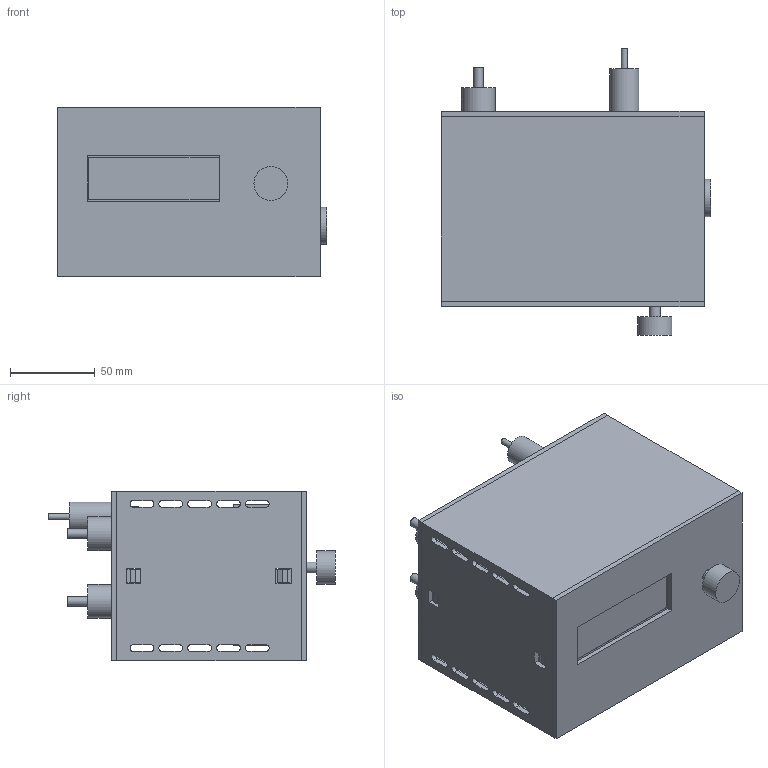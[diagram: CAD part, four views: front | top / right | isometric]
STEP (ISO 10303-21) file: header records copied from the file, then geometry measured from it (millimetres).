
FILE_DESCRIPTION(('Open CASCADE Model'),'2;1');
FILE_NAME('Open CASCADE Shape Model','2026-11-05T23:27:49',('Author'),( 'Open CASCADE'),'Open CASCADE STEP processor 7.8','Open CASCADE 7.8' ,'Unknown');
FILE_SCHEMA(('AUTOMOTIVE_DESIGN { 1 0 10303 214 1 1 1 1 }'));
Length unit declared in the file: millimetre
Products named in the file (108): Laboratory_controller_fit_study_07_integrated_buck; 01_Pieces_imprimees; 01_Shell_open_front_and_rear; 02_Removable_front_LCD_A; 03_B_removable_carrier; 04_Rear_panel_with_latches; 02_Carte_A_reference; PCB_A; A_C1_ENVELOPE; A_C2_ENVELOPE; A_C3_ENVELOPE; A_D1_ENVELOPE; A_D2_ENVELOPE; A_J1_ENVELOPE; A_J2_ENVELOPE; A_J3_ENVELOPE; A_J4_ENVELOPE; A_J5_ENVELOPE; A_J6_ENVELOPE; A_J7_ENVELOPE; A_JP1_ENVELOPE; A_R1_ENVELOPE; A_R2_ENVELOPE; A_R3_ENVELOPE; A_R4_ENVELOPE; A_R5_ENVELOPE; A_R6_ENVELOPE; A_R7_ENVELOPE; A_U2_ENVELOPE; A_DEVKIT_SOCKET_1; A_DEVKIT_MALE_HEADER_SPACER_1; A_DEVKIT_SOCKET_2; A_DEVKIT_MALE_HEADER_SPACER_2; A_DEVKIT_PCB_REFERENCE_54x27; A_DEVKIT_RF_SHIELD_ENVELOPE; A_DEVKIT_USB_BRIDGE_ENVELOPE; A_DEVKIT_USB_C_ENVELOPE; 03_Carte_B_reference; PCB_B; B_R3_ENVELOPE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
Assembly tree (107 placements, depth 3):
  Laboratory_controller_fit_study_07_integrated_buck
    01_Pieces_imprimees
      01_Shell_open_front_and_rear
      02_Removable_front_LCD_A
      03_B_removable_carrier
      04_Rear_panel_with_latches
    02_Carte_A_reference
      PCB_A
      A_C1_ENVELOPE
      A_C2_ENVELOPE
      A_C3_ENVELOPE
      A_D1_ENVELOPE
      A_D2_ENVELOPE
      A_J1_ENVELOPE
      A_J2_ENVELOPE
      A_J3_ENVELOPE
      A_J4_ENVELOPE
      A_J5_ENVELOPE
      A_J6_ENVELOPE
      A_J7_ENVELOPE
      A_JP1_ENVELOPE
      A_R1_ENVELOPE
      A_R2_ENVELOPE
      A_R3_ENVELOPE
      A_R4_ENVELOPE
      A_R5_ENVELOPE
      A_R6_ENVELOPE
      A_R7_ENVELOPE
      A_U2_ENVELOPE
      A_DEVKIT_SOCKET_1
      A_DEVKIT_MALE_HEADER_SPACER_1
      A_DEVKIT_SOCKET_2
      A_DEVKIT_MALE_HEADER_SPACER_2
      A_DEVKIT_PCB_REFERENCE_54x27
      A_DEVKIT_RF_SHIELD_ENVELOPE
      A_DEVKIT_USB_BRIDGE_ENVELOPE
      A_DEVKIT_USB_C_ENVELOPE
    03_Carte_B_reference
      PCB_B
      B_R3_ENVELOPE
      B_C3_ENVELOPE
      B_L1_ENVELOPE
      B_J4_ENVELOPE
      B_D9_ENVELOPE
      B_R12_ENVELOPE
      B_U5_ENVELOPE
      B_C5_ENVELOPE
      B_R5_ENVELOPE
      B_R11_ENVELOPE
      B_C2_ENVELOPE
      B_C8_ENVELOPE
      B_D4_ENVELOPE
      B_C6_ENVELOPE
      B_R13_ENVELOPE
      B_Q2_ENVELOPE
      B_F1_ENVELOPE
      B_C4_ENVELOPE
      B_D3_ENVELOPE
      B_J3_ENVELOPE
      B_R4_ENVELOPE
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Bounding box: 159 x 169 x 100 mm (x, y, z)
Volume: 421736 mm3; surface area: 317849.8 mm2
Topology: 101 solids, 101 shells, 1058 faces, 2474 edges, 1637 vertices
Faces by surface type: plane 973, cylinder 85
Full cylindrical faces by diameter (mm): 2.2 x12, 3 x3, 3.5 x1, 4.3 x1, 5.5 x2, 6.3 x2, 6.4 x1, 7.2 x1, 8 x1, 12 x6, 12.4 x1, 12.5 x2, 15 x2, 16 x1, 17 x2, 20 x5, 22 x2
Entity records: 63909 total; most frequent: CARTESIAN_POINT 11465, DIRECTION 8976, LINE 6079, VECTOR 6079, ORIENTED_EDGE 4948, PCURVE 4948, DEFINITIONAL_REPRESENTATION 4948, EDGE_CURVE 2474
